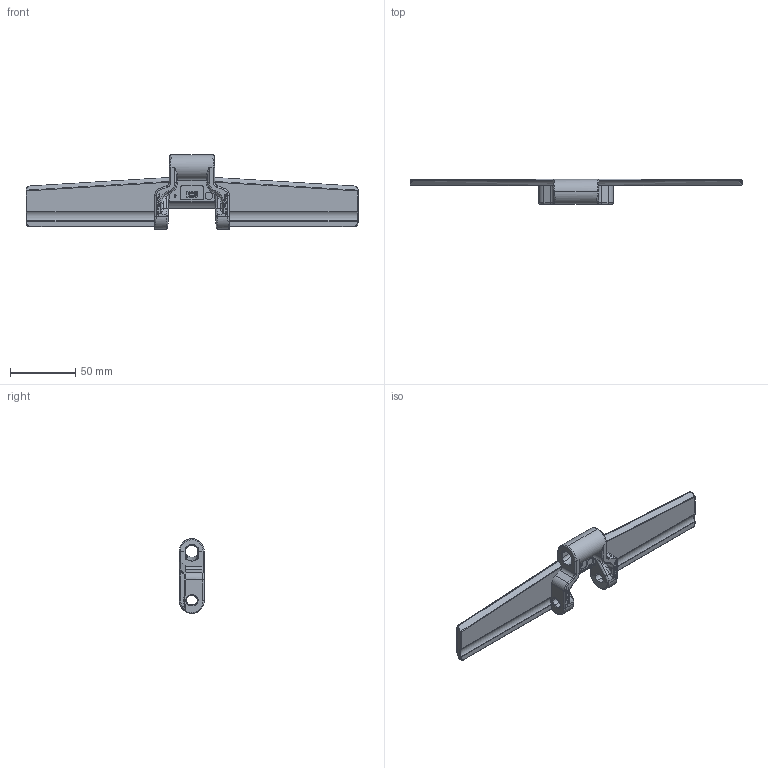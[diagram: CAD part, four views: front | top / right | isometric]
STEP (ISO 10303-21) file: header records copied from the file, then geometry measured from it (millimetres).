
FILE_DESCRIPTION (( 'STEP AP214' ), '1' );
FILE_NAME ('LF882M100.2.STEP', '2025-11-18T07:22:48', ( '' ), ( '' ), 'SwSTEP 2.0', 'SolidWorks 2022', '' );
FILE_SCHEMA (( 'AUTOMOTIVE_DESIGN' ));
Length unit declared in the file: millimetre
Products named in the file (1): LF882M100.2
Bounding box: 254 x 19.2 x 56.99 mm (x, y, z)
Volume: 50719.3 mm3; surface area: 24327.3 mm2
Topology: 1 solids, 1 shells, 498 faces, 1295 edges, 798 vertices
Faces by surface type: plane 238, bspline 139, cylinder 105, sphere 8, torus 6, cone 2
Entity records: 21659 total; most frequent: CARTESIAN_POINT 10774, ORIENTED_EDGE 2546, DIRECTION 1802, EDGE_CURVE 1273, VERTEX_POINT 798, LINE 772, VECTOR 772, EDGE_LOOP 525
